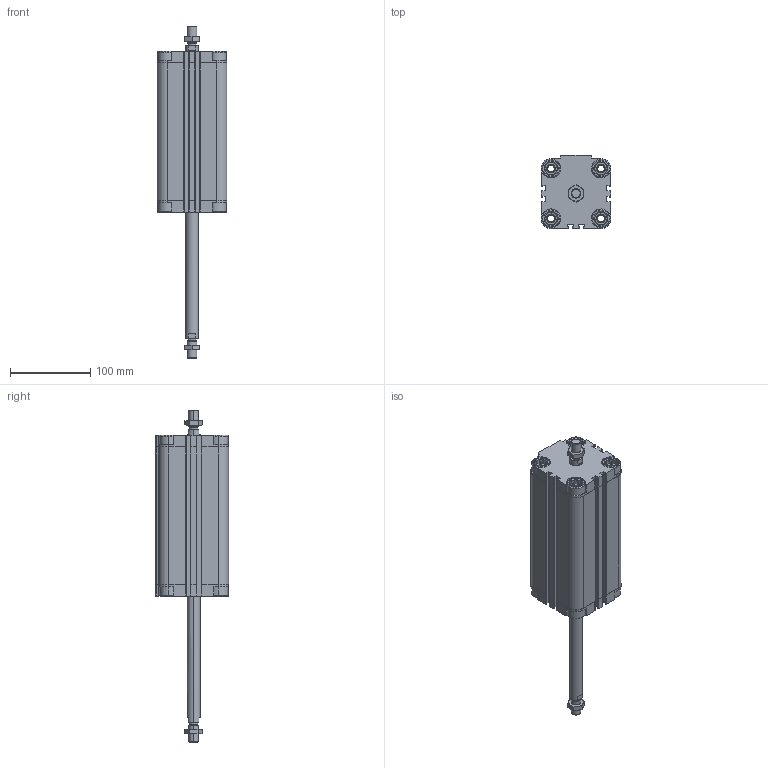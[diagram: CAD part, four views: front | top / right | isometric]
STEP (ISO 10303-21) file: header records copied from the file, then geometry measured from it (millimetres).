
FILE_DESCRIPTION (( 'STEP AP203' ), '1' );
FILE_NAME ('CDVU63-150M-P.STEP', '2020-07-21T15:22:55', ( '' ), ( '' ), 'SwSTEP 2.0', 'SolidWorks 2019', '' );
FILE_SCHEMA (( 'CONFIG_CONTROL_DESIGN' ));
Length unit declared in the file: millimetre
Products named in the file (1): CDVU63-150M-P
Bounding box: 87 x 91 x 413 mm (x, y, z)
Volume: 939884.7 mm3; surface area: 208994.5 mm2
Topology: 4 solids, 4 shells, 658 faces, 1744 edges, 1138 vertices
Faces by surface type: plane 386, cylinder 192, cone 80
Entity records: 21255 total; most frequent: CARTESIAN_POINT 4809, ORIENTED_EDGE 3480, DIRECTION 3322, EDGE_CURVE 1740, AXIS2_PLACEMENT_3D 1139, VERTEX_POINT 1138, LINE 1044, VECTOR 1044
